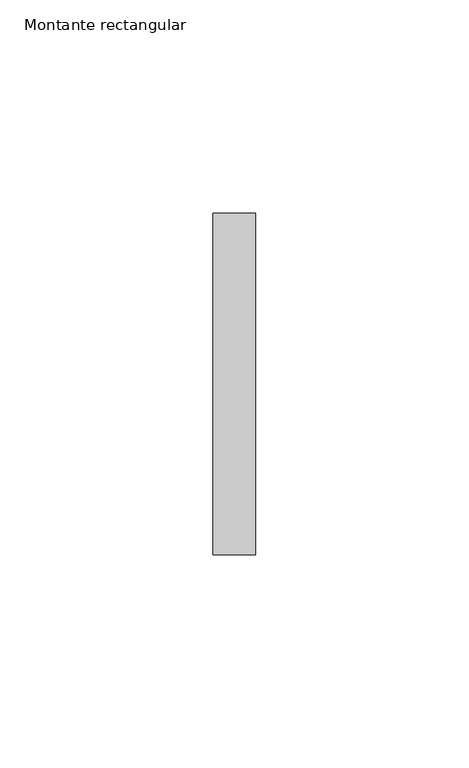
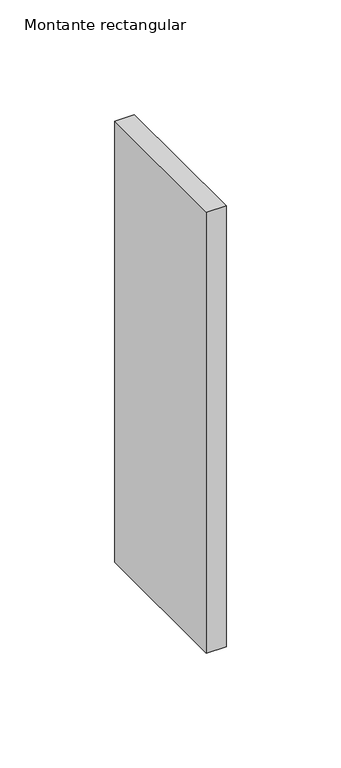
"""IFC4 building model written with IfcOpenShell, lengths in millimetres: member geometry, Montante rectangular : Junta de paves."""

from ifc_helpers import new_model, si_unit, frame, origin, place, context, project, spatial, polyline, outline, extrude, source, transform, mapped, element, save


def montante_rectangular_2e25ec90(model_context):
    return source(origin(), model_context, "Body", "SweptSolid", [
        extrude(outline(polyline([(-10.0, 40.0), (0.0, 40.0), (0.0, -40.0), (-10.0, -40.0), (-10.0, 40.0)])), frame((0.0, 0.0, -235.0), z_axis=(0.0, 0.0, 1.0), x_axis=(1.0, 0.0, 0.0)), (0.0, 0.0, 1.0), 235.0),
    ])


if __name__ == "__main__":
    model = new_model("IFC4")
    model_context = context("Model", 3, world=origin())
    ifc_project = project(units=[si_unit("LENGTHUNIT", "METRE", prefix="MILLI")], contexts=[model_context])
    site = spatial("IfcSite", under=ifc_project)
    building = spatial("IfcBuilding", under=site)
    placement = place(None, origin())
    montante_rectangular_shape = montante_rectangular_2e25ec90(model_context)
    element("IfcMember", 1, ObjectType="Montante rectangular : Junta de paves", at=placement, inside=building, context=model_context, shape_type="MappedRepresentation", body=[
        mapped(montante_rectangular_shape, transform((0.0, 0.0, 0.0), x_axis=(1.0, 0.0, 0.0), y_axis=(0.0, 1.0, 0.0), z_axis=(0.0, 0.0, 1.0))),
    ])
    save(model, "model.ifc")
